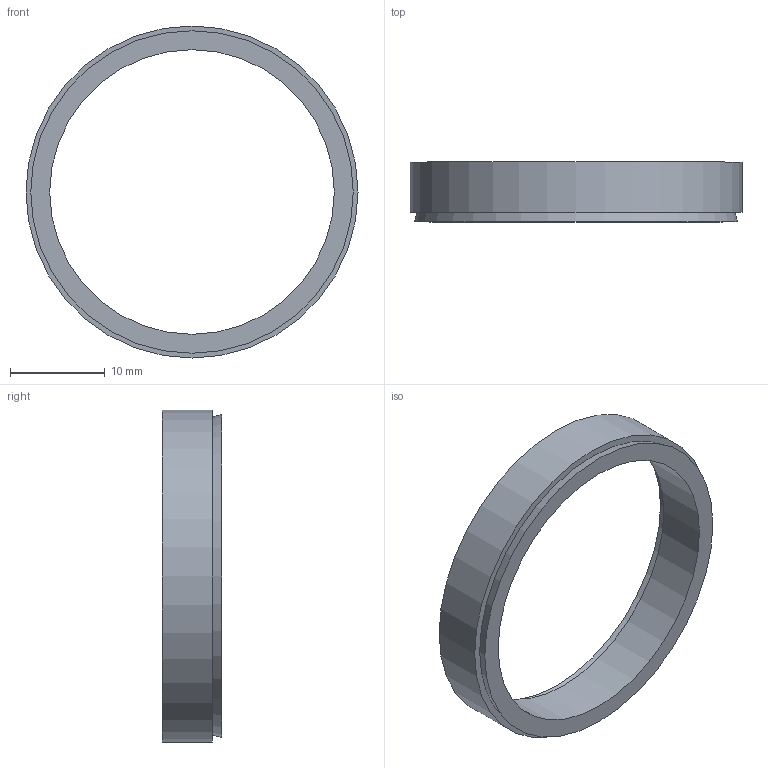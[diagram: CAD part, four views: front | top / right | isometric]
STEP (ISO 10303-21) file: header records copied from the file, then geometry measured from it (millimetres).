
FILE_DESCRIPTION( ( 'Unknown' ), '1' );
FILE_NAME( 'C:/Dokumente und Einstellungen/Sven/Desktop/homepage/cad - homepage/KBS50/KBS 50 - 30 x 35.stp', 'Unknown', ( 'Unknown' ), ( 'Unknown' ), 'XStep 1.0', 'Unknown', ' ' );
FILE_SCHEMA( ( 'automotive_design' ) );
Length unit declared in the file: millimetre
Products named in the file (1): 1
Bounding box: 35 x 6.3 x 35 mm (x, y, z)
Volume: 1481.7 mm3; surface area: 1851.3 mm2
Topology: 1 solids, 1 shells, 8 faces, 12 edges, 8 vertices
Faces by surface type: plane 4, cylinder 2, cone 2
Full cylindrical faces by diameter (mm): 30 x1, 35 x1
Entity records: 248 total; most frequent: DIRECTION 34, CARTESIAN_POINT 25, AXIS2_PLACEMENT_3D 17, EDGE_LOOP 16, ORIENTED_EDGE 16, FACE_OUTER_BOUND 10, STYLED_ITEM 8, PRESENTATION_STYLE_ASSIGNMENT 8
